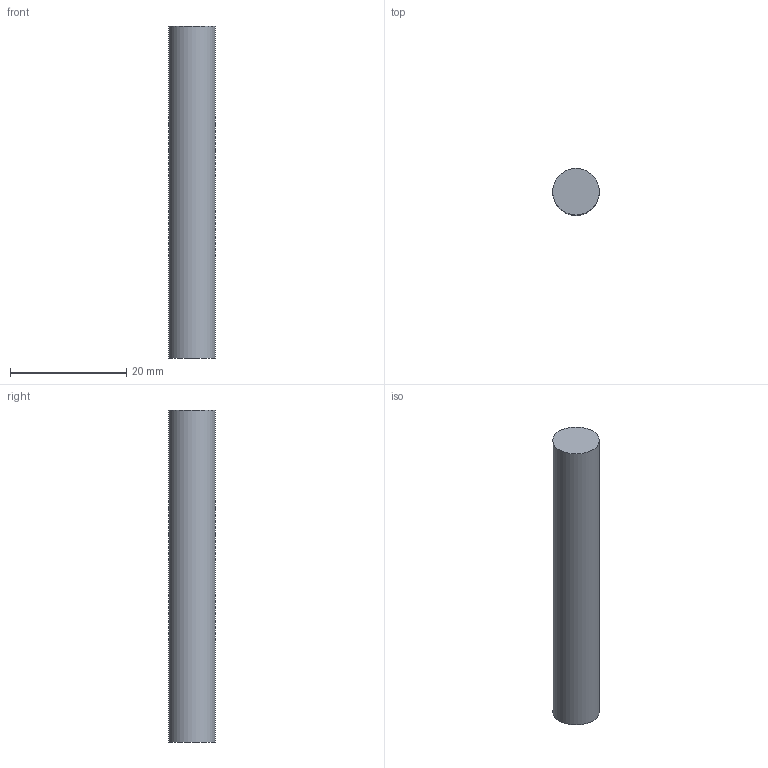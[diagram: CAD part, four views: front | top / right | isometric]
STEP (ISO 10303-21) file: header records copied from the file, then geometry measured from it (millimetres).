
FILE_DESCRIPTION(('Open CASCADE Model'),'2;1');
FILE_NAME('Open CASCADE Shape Model','2026-10-04T01:02:31',('Author'),( 'Open CASCADE'),'Open CASCADE STEP processor 8.0','Open CASCADE 8.0' ,'Unknown');
FILE_SCHEMA(('AUTOMOTIVE_DESIGN { 1 0 10303 214 1 1 1 1 }'));
Length unit declared in the file: millimetre
Products named in the file (1): Open CASCADE STEP translator 8.0 272
Bounding box: 8 x 8 x 57 mm (x, y, z)
Volume: 2865.1 mm3; surface area: 1533.1 mm2
Topology: 1 solids, 1 shells, 3 faces, 3 edges, 2 vertices
Faces by surface type: plane 2, cylinder 1
Full cylindrical faces by diameter (mm): 8 x1
Entity records: 108 total; most frequent: DIRECTION 19, CARTESIAN_POINT 15, AXIS2_PLACEMENT_3D 6, ORIENTED_EDGE 6, PCURVE 6, DEFINITIONAL_REPRESENTATION 6, LINE 5, VECTOR 5
